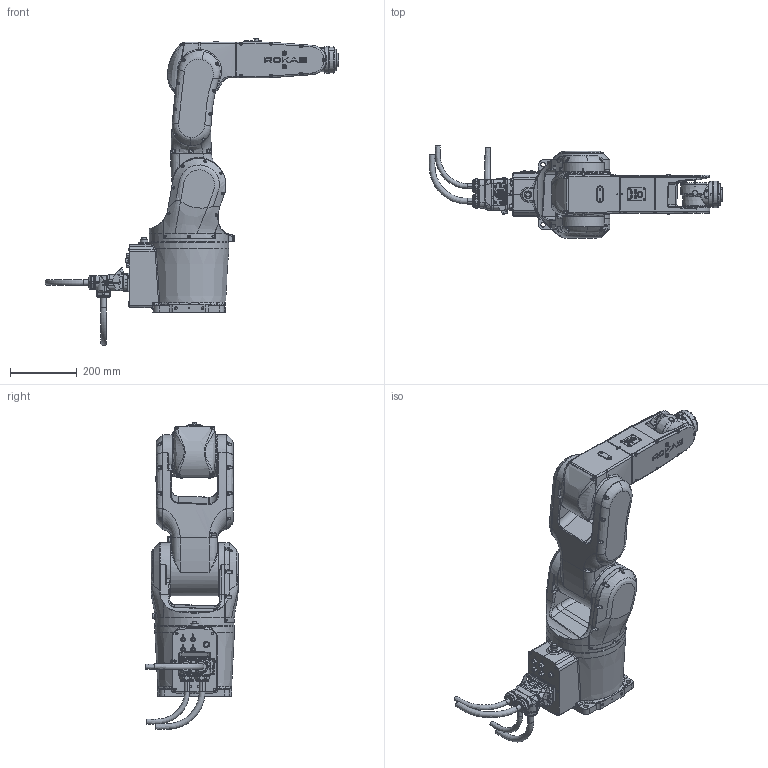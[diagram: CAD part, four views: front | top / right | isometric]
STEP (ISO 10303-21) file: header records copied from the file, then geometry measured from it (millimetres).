
FILE_DESCRIPTION(/* description */ (''),/* implementation_level */ '2;1');
FILE_NAME(/* name */ 'XB12／4-R707 简化模型(20200902).stp',/* time_stamp */ '2020-09-03T12:34:27+08:00',/* author */ (''),/* organization */ (''),/* preprocessor_version */ 'ST-DEVELOPER v16',/* originating_system */ 'SIEMENS PLM Software NX 10.0',/* authorisation */ '');
FILE_SCHEMA (('CONFIG_CONTROL_DESIGN'));
Products named in the file (8): XB12／4-R707-6; XB12／4-R707-5; XB12／4-R707-4; XB12／4-R707-3; XB12／4-R707-2; XB12／4-R707-1; XB12／4-R707 base; XB12／4-R707 简化模型(20200902
)
Assembly tree (7 placements, depth 2):
  XB12／4-R707 简化模型(20200902
)
    XB12／4-R707 base
    XB12／4-R707-1
    XB12／4-R707-2
    XB12／4-R707-3
    XB12／4-R707-4
    XB12／4-R707-5
    XB12／4-R707-6
Bounding box: 879.15 x 275.88 x 918.55 mm (x, y, z)
Volume: 30661558.6 mm3; surface area: 1397065.4 mm2
Topology: 10 solids, 18 shells, 3752 faces, 9146 edges, 5542 vertices
Faces by surface type: plane 1185, cylinder 927, bspline 837, torus 266, cone 260, extrusion 209, sphere 68
Full cylindrical faces by diameter (mm): 3.3 x8, 3.4 x12, 4.2 x15, 4.826 x1, 5 x3, 5.5 x71, 6 x2, 7 x20, 8.5 x10, 9.5 x3, 10 x4, 10.701 x2, 13 x1, 13.5 x4, 14 x1, 15 x4, 18.5 x1, 20 x2, 22 x1, 40 x1, 45 x1, 50 x2, 55 x2, 59 x2, 65 x1, 68 x1, 70 x2, 86 x2, 88 x2, 100 x2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
Entity records: 167514 total; most frequent: CARTESIAN_POINT 88983, ORIENTED_EDGE 17096, DIRECTION 14049, EDGE_CURVE 8548, AXIS2_PLACEMENT_3D 5524, VERTEX_POINT 5385, EDGE_LOOP 4304, ADVANCED_FACE 3743
